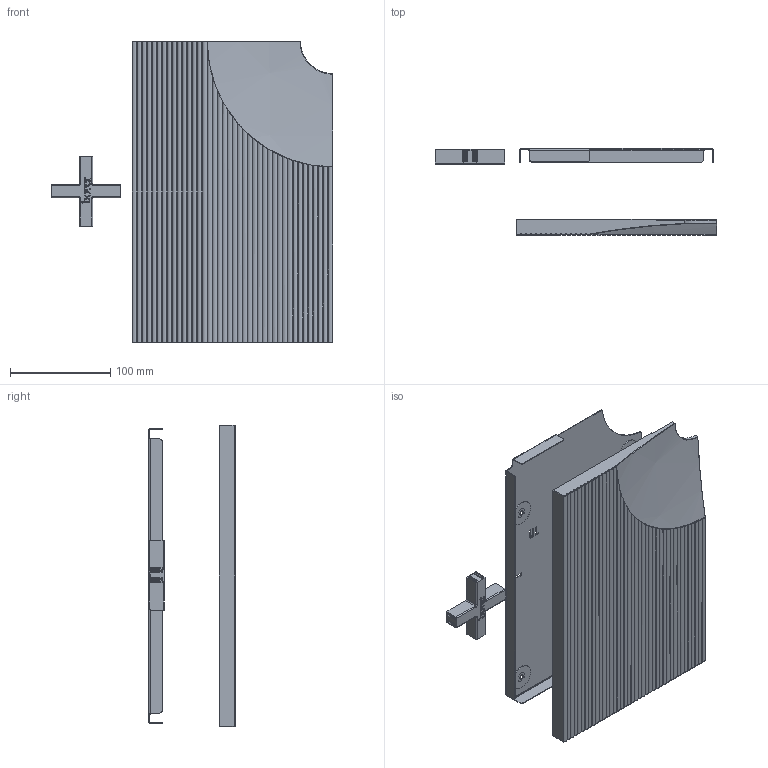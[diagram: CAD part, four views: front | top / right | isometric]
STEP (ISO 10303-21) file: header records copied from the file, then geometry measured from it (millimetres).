
FILE_DESCRIPTION (( 'STEP AP203' ), '1' );
FILE_NAME ('AC126002XXXU.STEP', '2025-01-28T09:25:04', ( '' ), ( '' ), 'SwSTEP 2.0', 'SolidWorks 2023', '' );
FILE_SCHEMA (( 'CONFIG_CONTROL_DESIGN' ));
Length unit declared in the file: millimetre
Products named in the file (8): SUB126-021-CN; 126-031; 126-026; AC126002XXXU; 126-044; 998-006; 126-025; SUB126-014-CNU
Assembly tree (14 placements, depth 3):
  AC126002XXXU
    SUB126-014-CNU
      126-044
      126-025  x4
      126-026
    SUB126-021-CN
      126-031
      998-006  x5
Bounding box: 280.53 x 86.24 x 300 mm (x, y, z)
Volume: 228106.6 mm3; surface area: 318963.8 mm2
Topology: 12 solids, 12 shells, 1000 faces, 2564 edges, 1633 vertices
Faces by surface type: cylinder 454, plane 255, torus 160, bspline 112, cone 10, sphere 9
Entity records: 38975 total; most frequent: CARTESIAN_POINT 16326, ORIENTED_EDGE 4832, DIRECTION 4272, EDGE_CURVE 2416, AXIS2_PLACEMENT_3D 1604, VERTEX_POINT 1537, VECTOR 1064, LINE 1064
